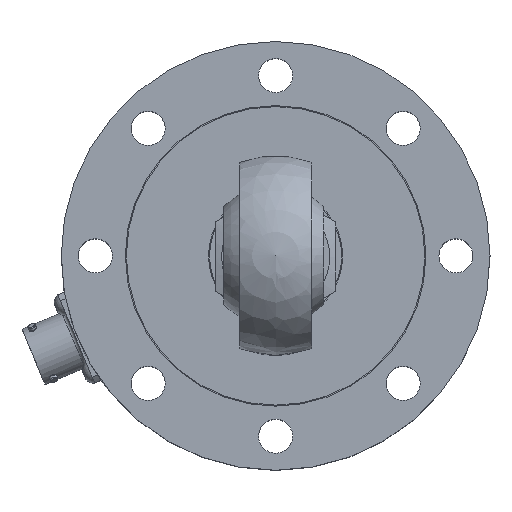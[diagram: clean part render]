
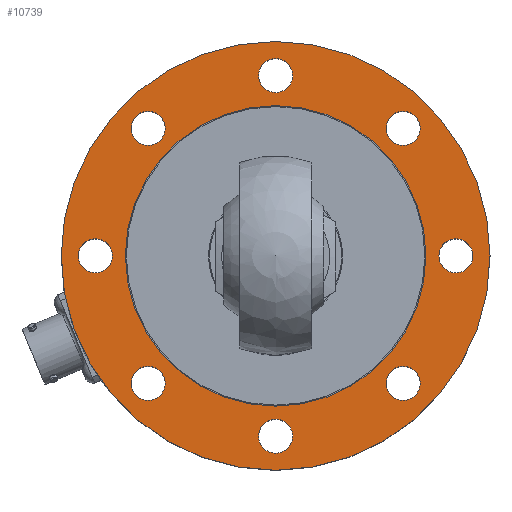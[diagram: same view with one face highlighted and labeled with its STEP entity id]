
A CAD part, top view. The second image highlights one B-rep face of the part: STEP entity #10739.
In plain terms, the highlighted planar face has unit normal (0, 0, 1).
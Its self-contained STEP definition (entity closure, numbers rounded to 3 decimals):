
#178=FACE_BOUND('',#1437,.T.);
#179=FACE_BOUND('',#1438,.T.);
#180=FACE_BOUND('',#1439,.T.);
#181=FACE_BOUND('',#1440,.T.);
#182=FACE_BOUND('',#1441,.T.);
#183=FACE_BOUND('',#1442,.T.);
#184=FACE_BOUND('',#1443,.T.);
#185=FACE_BOUND('',#1444,.T.);
#186=FACE_BOUND('',#1445,.T.);
#385=PLANE('',#11547);
#796=FACE_OUTER_BOUND('',#1436,.T.);
#1436=EDGE_LOOP('',(#7838,#7839));
#1437=EDGE_LOOP('',(#7840));
#1438=EDGE_LOOP('',(#7841));
#1439=EDGE_LOOP('',(#7842));
#1440=EDGE_LOOP('',(#7843));
#1441=EDGE_LOOP('',(#7844));
#1442=EDGE_LOOP('',(#7845));
#1443=EDGE_LOOP('',(#7846));
#1444=EDGE_LOOP('',(#7847));
#1445=EDGE_LOOP('',(#7848,#7849));
#2156=CIRCLE('',#11517,4.25);
#2158=CIRCLE('',#11520,4.25);
#2160=CIRCLE('',#11523,4.25);
#2162=CIRCLE('',#11526,4.25);
#2164=CIRCLE('',#11529,4.25);
#2166=CIRCLE('',#11532,4.25);
#2168=CIRCLE('',#11535,4.25);
#2174=CIRCLE('',#11545,37.5);
#2175=CIRCLE('',#11546,37.5);
#2176=CIRCLE('',#11548,53.5);
#2177=CIRCLE('',#11549,53.5);
#2178=CIRCLE('',#11550,4.25);
#4606=VERTEX_POINT('',#26607);
#4608=VERTEX_POINT('',#26613);
#4610=VERTEX_POINT('',#26619);
#4612=VERTEX_POINT('',#26625);
#4614=VERTEX_POINT('',#26631);
#4616=VERTEX_POINT('',#26637);
#4618=VERTEX_POINT('',#26643);
#4624=VERTEX_POINT('',#26661);
#4625=VERTEX_POINT('',#26662);
#4626=VERTEX_POINT('',#26667);
#4627=VERTEX_POINT('',#26668);
#4628=VERTEX_POINT('',#26671);
#5853=EDGE_CURVE('',#4606,#4606,#2156,.T.);
#5856=EDGE_CURVE('',#4608,#4608,#2158,.T.);
#5859=EDGE_CURVE('',#4610,#4610,#2160,.T.);
#5862=EDGE_CURVE('',#4612,#4612,#2162,.T.);
#5865=EDGE_CURVE('',#4614,#4614,#2164,.T.);
#5868=EDGE_CURVE('',#4616,#4616,#2166,.T.);
#5871=EDGE_CURVE('',#4618,#4618,#2168,.T.);
#5879=EDGE_CURVE('',#4624,#4625,#2174,.T.);
#5881=EDGE_CURVE('',#4625,#4624,#2175,.T.);
#5882=EDGE_CURVE('',#4626,#4627,#2176,.T.);
#5883=EDGE_CURVE('',#4627,#4626,#2177,.T.);
#5884=EDGE_CURVE('',#4628,#4628,#2178,.T.);
#7838=ORIENTED_EDGE('',*,*,#5882,.T.);
#7839=ORIENTED_EDGE('',*,*,#5883,.T.);
#7840=ORIENTED_EDGE('',*,*,#5853,.T.);
#7841=ORIENTED_EDGE('',*,*,#5856,.T.);
#7842=ORIENTED_EDGE('',*,*,#5859,.T.);
#7843=ORIENTED_EDGE('',*,*,#5862,.T.);
#7844=ORIENTED_EDGE('',*,*,#5865,.T.);
#7845=ORIENTED_EDGE('',*,*,#5868,.T.);
#7846=ORIENTED_EDGE('',*,*,#5871,.T.);
#7847=ORIENTED_EDGE('',*,*,#5884,.T.);
#7848=ORIENTED_EDGE('',*,*,#5879,.F.);
#7849=ORIENTED_EDGE('',*,*,#5881,.F.);
#10739=ADVANCED_FACE('',(#796,#178,#179,#180,#181,#182,#183,#184,#185,#186),
#385,.T.);
#11517=AXIS2_PLACEMENT_3D('',#26608,#13013,#13014);
#11520=AXIS2_PLACEMENT_3D('',#26614,#13020,#13021);
#11523=AXIS2_PLACEMENT_3D('',#26620,#13027,#13028);
#11526=AXIS2_PLACEMENT_3D('',#26626,#13034,#13035);
#11529=AXIS2_PLACEMENT_3D('',#26632,#13041,#13042);
#11532=AXIS2_PLACEMENT_3D('',#26638,#13048,#13049);
#11535=AXIS2_PLACEMENT_3D('',#26644,#13055,#13056);
#11545=AXIS2_PLACEMENT_3D('',#26663,#13077,#13078);
#11546=AXIS2_PLACEMENT_3D('',#26665,#13080,#13081);
#11547=AXIS2_PLACEMENT_3D('',#26666,#13082,#13083);
#11548=AXIS2_PLACEMENT_3D('',#26669,#13084,#13085);
#11549=AXIS2_PLACEMENT_3D('',#26670,#13086,#13087);
#11550=AXIS2_PLACEMENT_3D('',#26672,#13088,#13089);
#13013=DIRECTION('center_axis',(0.,0.,
-1.));
#13014=DIRECTION('ref_axis',(-0.707,0.707,0.));
#13020=DIRECTION('center_axis',(0.,0.,
-1.));
#13021=DIRECTION('ref_axis',(0.,1.,0.));
#13027=DIRECTION('center_axis',(0.,0.,
-1.));
#13028=DIRECTION('ref_axis',(0.707,0.707,0.));
#13034=DIRECTION('center_axis',(0.,0.,
-1.));
#13035=DIRECTION('ref_axis',(1.,0.,0.));
#13041=DIRECTION('center_axis',(0.,0.,
-1.));
#13042=DIRECTION('ref_axis',(0.707,-0.707,0.));
#13048=DIRECTION('center_axis',(0.,0.,
-1.));
#13049=DIRECTION('ref_axis',(0.,-1.,0.));
#13055=DIRECTION('center_axis',(0.,0.,
-1.));
#13056=DIRECTION('ref_axis',(-0.707,-0.707,0.));
#13077=DIRECTION('center_axis',(0.,0.,1.));
#13078=DIRECTION('ref_axis',(1.,0.,0.));
#13080=DIRECTION('center_axis',(0.,0.,1.));
#13081=DIRECTION('ref_axis',(1.,0.,0.));
#13082=DIRECTION('center_axis',(0.,0.,1.));
#13083=DIRECTION('ref_axis',(1.,0.,0.));
#13084=DIRECTION('center_axis',(0.,0.,1.));
#13085=DIRECTION('ref_axis',(1.,0.,0.));
#13086=DIRECTION('center_axis',(0.,0.,1.));
#13087=DIRECTION('ref_axis',(1.,0.,0.));
#13088=DIRECTION('center_axis',(0.,0.,-1.));
#13089=DIRECTION('ref_axis',(-1.,0.,0.));
#26607=CARTESIAN_POINT('',(34.825,-34.825,31.));
#26608=CARTESIAN_POINT('Origin',(31.82,-31.82,31.));
#26613=CARTESIAN_POINT('',(0.,-49.25,31.));
#26614=CARTESIAN_POINT('Origin',(0.,-45.,31.));
#26619=CARTESIAN_POINT('',(-34.825,-34.825,31.));
#26620=CARTESIAN_POINT('Origin',(-31.82,-31.82,31.));
#26625=CARTESIAN_POINT('',(-49.25,0.,31.));
#26626=CARTESIAN_POINT('Origin',(-45.,0.,31.));
#26631=CARTESIAN_POINT('',(-34.825,34.825,31.));
#26632=CARTESIAN_POINT('Origin',(-31.82,31.82,31.));
#26637=CARTESIAN_POINT('',(0.,49.25,31.));
#26638=CARTESIAN_POINT('Origin',(0.,45.,31.));
#26643=CARTESIAN_POINT('',(34.825,34.825,31.));
#26644=CARTESIAN_POINT('Origin',(31.82,31.82,31.));
#26661=CARTESIAN_POINT('',(37.5,0.,31.));
#26662=CARTESIAN_POINT('',(-37.5,0.,31.));
#26663=CARTESIAN_POINT('Origin',(0.,0.,31.));
#26665=CARTESIAN_POINT('Origin',(0.,0.,31.));
#26666=CARTESIAN_POINT('Origin',(37.5,0.,31.));
#26667=CARTESIAN_POINT('',(53.5,0.,31.));
#26668=CARTESIAN_POINT('',(-53.5,0.,31.));
#26669=CARTESIAN_POINT('Origin',(0.,0.,31.));
#26670=CARTESIAN_POINT('Origin',(0.,0.,31.));
#26671=CARTESIAN_POINT('',(49.25,0.,31.));
#26672=CARTESIAN_POINT('Origin',(45.,0.,31.));
